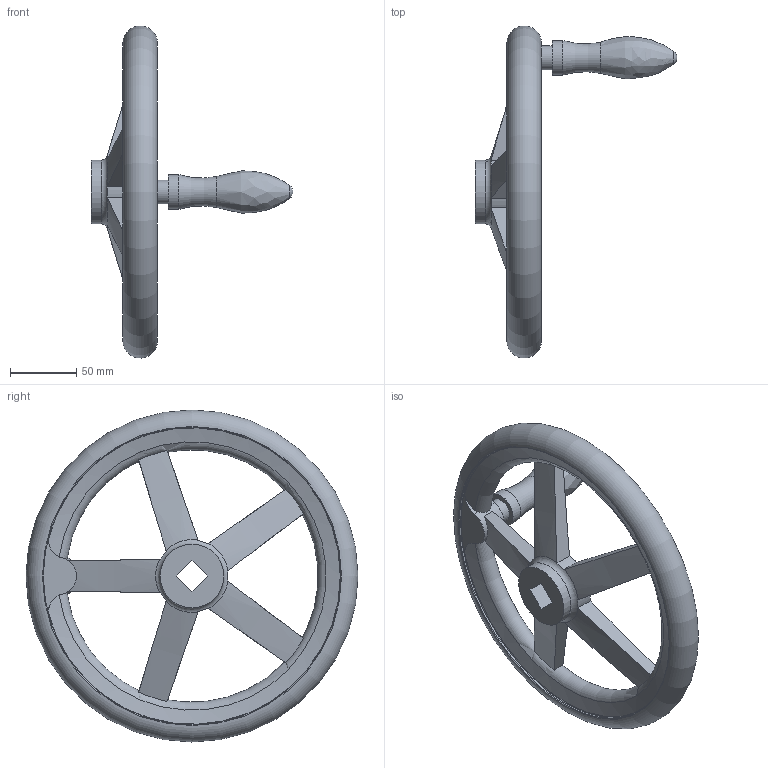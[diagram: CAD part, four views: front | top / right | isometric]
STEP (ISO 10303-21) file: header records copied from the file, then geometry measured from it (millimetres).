
FILE_DESCRIPTION( ( 'STEP AP203' ), '1' );
FILE_NAME( 'C:/Temp/Ganter_Step_05_03_2020/data/1_3/din_950/din_950_v/din_950_v_d/Handwheel DIN 950-AL-250-V17-D.stp', '2020-03-05T10:31:40', ( 'License CC BY-ND 4.0' ), ( 'CADENAS' ), ' ', 'PARTsolutions', ' ' );
FILE_SCHEMA( ( 'CONFIG_CONTROL_DESIGN' ) );
Length unit declared in the file: millimetre
Products named in the file (1): _Handwheel DIN 950-AL-250-V17-D
Bounding box: 152 x 249.93 x 249.93 mm (x, y, z)
Volume: 569716.8 mm3; surface area: 103134.5 mm2
Topology: 1 solids, 1 shells, 58 faces, 170 edges, 110 vertices
Faces by surface type: plane 19, cylinder 16, torus 13, cone 8, sphere 1, bspline 1
Full cylindrical faces by diameter (mm): 18 x1, 26 x1, 48 x2, 224 x2
Entity records: 2359 total; most frequent: CARTESIAN_POINT 939, ORIENTED_EDGE 292, DIRECTION 256, EDGE_CURVE 146, AXIS2_PLACEMENT_3D 114, VERTEX_POINT 105, EDGE_LOOP 83, FACE_OUTER_BOUND 73
